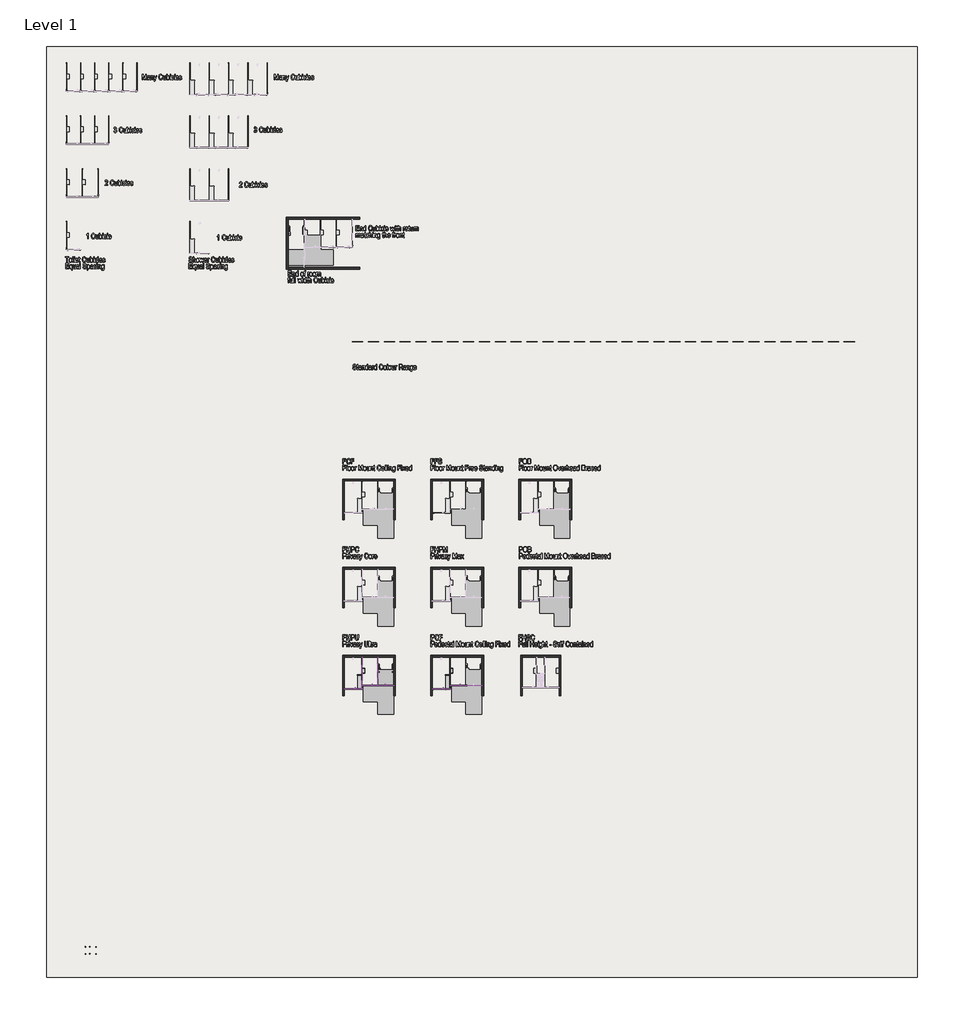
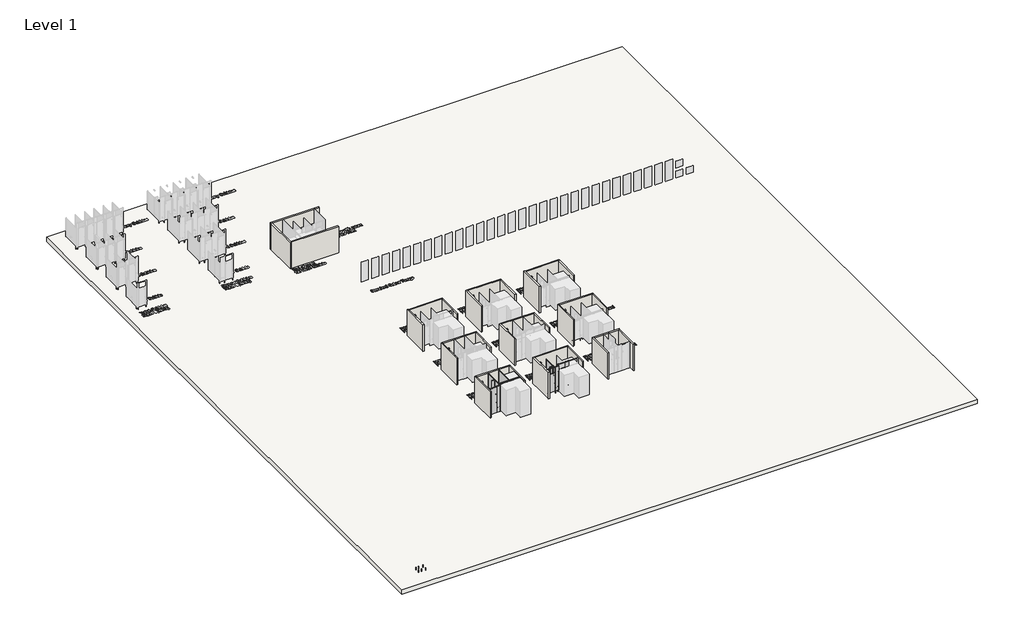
# One storey, part 1 of 21: 71 furniture elements, 30 walls, 5 proxies, 1 slab.
"""IFC4 building model written with IfcOpenShell, lengths in millimetres."""

from ifc_helpers import new_model, si_unit, frame, origin, origin_with_axes, place, context, project, spatial, polyline, outline, extrude, faceted_brep, transform, mapped, element, save
from components import grab_rail_angled_generic_variable_c761e824, grab_rail_angled_generic_variable_3e2c0b31, toilet_paper_dispenser_single_generic_jumbo_roll_standard_5525cc7b, furniture_50x50x3_ea_30474b0d, single_jumbo_roll_e7ba397d, standard_17157e73, standard_33255a47, standard_312035cd, standard_951f8db3, standard_8b35f988, standard_a09735d1, standard_50133f41, standard_9f86a58c, standard_54add324, standard_539b4371, standard_d9afaeec, standard_103004a1, standard_12249eb2, standard_d7762a54, standard_31cafe8a, standard_3d746f33, standard_4055153e, standard_ba3eb68e, standard_246fb630, standard_a495ee6c, standard_6f46902e, standard_7d118681, standard_5e636450, standard_dc7732f7, standard_ce56a993, standard_a54649d3, standard_8169fa8b, standard_67804c96, standard_4ddd5521

model = new_model("IFC4")

# Units and contexts
model_context = context("Model", 3, world=origin())
ifc_project = project(units=[si_unit("LENGTHUNIT", "METRE", prefix="MILLI")], contexts=[model_context])

# Site, building, storey
site = spatial("IfcSite", under=ifc_project)
building = spatial("IfcBuilding", under=site)
storey = spatial("IfcBuildingStorey", under=building, Name="Level 1", Elevation=0.0)

# Proxies
placement = place(None, origin())
grab_rail_angled_generic_variable_shape = grab_rail_angled_generic_variable_c761e824(model_context)
element("IfcBuildingElementProxy", 1, Name="Grab Rail-Angled-Generic-Variable : Ambulant-32Ø 450+450@90°", ObjectType="Grab Rail-Angled-Generic-Variable : Ambulant-32Ø 450+450@90°", at=placement, inside=storey, context=model_context, shape_type="MappedRepresentation", body=[
    mapped(grab_rail_angled_generic_variable_shape, transform((-9235.416652, -561.5342317, 784.0), x_axis=(0.0, 1.0, 0.0), y_axis=(0.0, 0.0, 1.0), z_axis=(1.0, 0.0, 0.0))),
])
grab_rail_angled_generic_variable_2_shape = grab_rail_angled_generic_variable_3e2c0b31(model_context)
element("IfcBuildingElementProxy", 2, Name="Grab Rail-Angled-Generic-Variable : Ambulant-32Ø 450+450@90°", ObjectType="Grab Rail-Angled-Generic-Variable : Ambulant-32Ø 450+450@90°", at=placement, inside=storey, context=model_context, shape_type="MappedRepresentation", body=[
    mapped(grab_rail_angled_generic_variable_2_shape, transform((-8335.416652, -561.5342317, 784.0), x_axis=(0.0, 1.0, 0.0), y_axis=(0.0, 0.0, -1.0), z_axis=(-1.0, 0.0, 0.0))),
])
toilet_paper_dispenser_single_generic_jumbo_roll_standard_shape = toilet_paper_dispenser_single_generic_jumbo_roll_standard_5525cc7b(model_context)
element("IfcBuildingElementProxy", 3, Name="Toilet Paper Dispenser-Single-Generic-Jumbo Roll : Standard", ObjectType="Toilet Paper Dispenser-Single-Generic-Jumbo Roll : Standard", at=placement, inside=storey, context=model_context, shape_type="MappedRepresentation", body=[
    mapped(toilet_paper_dispenser_single_generic_jumbo_roll_standard_shape, transform((-10135.416652, -715.5342317, 561.5), x_axis=(0.0, 1.0000000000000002, 0.0), y_axis=(0.0, 0.0, 1.0), z_axis=(1.0000000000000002, 0.0, 0.0))),
])
element("IfcBuildingElementProxy", 4, Name="Toilet Paper Dispenser-Single-Generic-Jumbo Roll : Standard", ObjectType="Toilet Paper Dispenser-Single-Generic-Jumbo Roll : Standard", at=placement, inside=storey, context=model_context, shape_type="MappedRepresentation", body=[
    mapped(toilet_paper_dispenser_single_generic_jumbo_roll_standard_shape, transform((-5135.416652, -715.5342317, 561.5), x_axis=(0.0, 1.0000000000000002, 0.0), y_axis=(0.0, 0.0, 1.0), z_axis=(1.0000000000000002, 0.0, 0.0))),
])
element("IfcBuildingElementProxy", 5, Name="Toilet Paper Dispenser-Single-Generic-Jumbo Roll : Standard", ObjectType="Toilet Paper Dispenser-Single-Generic-Jumbo Roll : Standard", at=placement, inside=storey, context=model_context, shape_type="MappedRepresentation", body=[
    mapped(toilet_paper_dispenser_single_generic_jumbo_roll_standard_shape, transform((-9235.416652, -715.5342317, 561.5), x_axis=(0.0, 1.0000000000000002, 0.0), y_axis=(0.0, 0.0, 1.0), z_axis=(1.0000000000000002, 0.0, 0.0))),
])

# Furniture
furniture_50x50x3_ea_shape = furniture_50x50x3_ea_30474b0d(model_context)
element("IfcFurniture", 6, ObjectType="X_Partition-Angle-Duracube-Shower Seat : 50x50x3 EA", at=placement, inside=storey, context=model_context, shape_type="MappedRepresentation", body=[
    mapped(furniture_50x50x3_ea_shape, transform((-5148.416652, -1008.5342317, 462.0), x_axis=(0.0, -1.0, 0.0), y_axis=(0.0, 0.0, 1.0), z_axis=(-1.0, 0.0, 0.0))),
])
element("IfcFurniture", 7, ObjectType="X_Partition-Angle-Duracube-Shower Seat : 50x50x3 EA", at=placement, inside=storey, context=model_context, shape_type="MappedRepresentation", body=[
    mapped(furniture_50x50x3_ea_shape, transform((-5148.416652, -1695.5342317, 462.0), x_axis=(0.0, -1.0, 0.0), y_axis=(0.0, 0.0, 1.0), z_axis=(-1.0, 0.0, 0.0))),
])
element("IfcFurniture", 8, ObjectType="X_Partition-Angle-Duracube-Shower Seat : 50x50x3 EA", at=placement, inside=storey, context=model_context, shape_type="MappedRepresentation", body=[
    mapped(furniture_50x50x3_ea_shape, transform((-10148.416652, -1008.5342317, 462.0), x_axis=(0.0, -1.0, 0.0), y_axis=(0.0, 0.0, 1.0), z_axis=(-1.0, 0.0, 0.0))),
])
element("IfcFurniture", 9, ObjectType="X_Partition-Angle-Duracube-Shower Seat : 50x50x3 EA", at=placement, inside=storey, context=model_context, shape_type="MappedRepresentation", body=[
    mapped(furniture_50x50x3_ea_shape, transform((-10148.416652, -1695.5342317, 462.0), x_axis=(0.0, -1.0, 0.0), y_axis=(0.0, 0.0, 1.0), z_axis=(-1.0, 0.0, 0.0))),
])
element("IfcFurniture", 10, ObjectType="X_Partition-Angle-Duracube-Shower Seat : 50x50x3 EA", at=placement, inside=storey, context=model_context, shape_type="MappedRepresentation", body=[
    mapped(furniture_50x50x3_ea_shape, transform((-5148.416652, -1352.0342317, 462.0), x_axis=(0.0, -1.0, 0.0), y_axis=(0.0, 0.0, 1.0), z_axis=(-1.0, 0.0, 0.0))),
])
element("IfcFurniture", 11, ObjectType="X_Partition-Angle-Duracube-Shower Seat : 50x50x3 EA", at=placement, inside=storey, context=model_context, shape_type="MappedRepresentation", body=[
    mapped(furniture_50x50x3_ea_shape, transform((-5363.416652, -958.5342317, 462.0), x_axis=(1.0, 0.0, 0.0), y_axis=(0.0, 0.0, 1.0), z_axis=(0.0, -1.0, 0.0))),
])
element("IfcFurniture", 12, ObjectType="X_Partition-Angle-Duracube-Shower Seat : 50x50x3 EA", at=placement, inside=storey, context=model_context, shape_type="MappedRepresentation", body=[
    mapped(furniture_50x50x3_ea_shape, transform((-5363.416652, -1720.5342317, 487.0), x_axis=(1.0, 0.0, 0.0), y_axis=(0.0, -1.0, 0.0), z_axis=(0.0, 0.0, -1.0))),
])
element("IfcFurniture", 13, ObjectType="X_Partition-Angle-Duracube-Shower Seat : 50x50x3 EA", at=placement, inside=storey, context=model_context, shape_type="MappedRepresentation", body=[
    mapped(furniture_50x50x3_ea_shape, transform((-10148.416652, -1352.0342317, 462.0), x_axis=(0.0, -1.0, 0.0), y_axis=(0.0, 0.0, 1.0), z_axis=(-1.0, 0.0, 0.0))),
])
element("IfcFurniture", 14, ObjectType="X_Partition-Angle-Duracube-Shower Seat : 50x50x3 EA", at=placement, inside=storey, context=model_context, shape_type="MappedRepresentation", body=[
    mapped(furniture_50x50x3_ea_shape, transform((-10363.416652, -958.5342317, 462.0), x_axis=(1.0, 0.0, 0.0), y_axis=(0.0, 0.0, 1.0), z_axis=(0.0, -1.0, 0.0))),
])
element("IfcFurniture", 15, ObjectType="X_Partition-Angle-Duracube-Shower Seat : 50x50x3 EA", at=placement, inside=storey, context=model_context, shape_type="MappedRepresentation", body=[
    mapped(furniture_50x50x3_ea_shape, transform((-10363.416652, -1720.5342317, 487.0), x_axis=(1.0, 0.0, 0.0), y_axis=(0.0, -1.0, 0.0), z_axis=(0.0, 0.0, -1.0))),
])
single_jumbo_roll_shape = single_jumbo_roll_e7ba397d(model_context)
element("IfcFurniture", 16, ObjectType="X_Partition-Compact Laminate-Duracube-Rectangular : Single Jumbo Roll", at=placement, inside=storey, context=model_context, shape_type="MappedRepresentation", body=[
    mapped(single_jumbo_roll_shape, transform((-9248.416652, -790.2345582, 0.0), x_axis=(0.0, 1.0000000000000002, 0.0), y_axis=(-1.0000000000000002, 0.0, 0.0), z_axis=(0.0, 0.0, 1.0))),
])
standard_shape = standard_17157e73(model_context)
element("IfcFurniture", 17, ObjectType="X_Partition-Compact Laminate-Duracube-Rectangular : Standard", at=placement, inside=storey, context=model_context, shape_type="MappedRepresentation", body=[
    mapped(standard_shape, transform((-5148.416652, -890.2345582, 0.0), x_axis=(0.0, 1.0000000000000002, 0.0), y_axis=(-1.0000000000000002, 0.0, 0.0), z_axis=(0.0, 0.0, 1.0))),
])
standard_2_shape = standard_33255a47(model_context)
element("IfcFurniture", 18, ObjectType="X_Partition-Compact Laminate-Duracube-Rectangular : Standard", at=placement, inside=storey, context=model_context, shape_type="MappedRepresentation", body=[
    mapped(standard_2_shape, transform((-5129.6169784, -1545.5342317, 0.0), x_axis=(1.0, 0.0, 0.0), y_axis=(0.0, 1.0, 0.0), z_axis=(0.0, 0.0, 1.0))),
])
element("IfcFurniture", 19, ObjectType="X_Partition-Compact Laminate-Duracube-Rectangular : Standard", at=placement, inside=storey, context=model_context, shape_type="MappedRepresentation", body=[
    mapped(standard_2_shape, transform((-6129.6169784, -1745.5342317, 0.0), x_axis=(1.0, 0.0, 0.0), y_axis=(0.0, 1.0, 0.0), z_axis=(0.0, 0.0, 1.0))),
])
standard_3_shape = standard_312035cd(model_context)
element("IfcFurniture", 20, ObjectType="X_Partition-Compact Laminate-Duracube-Rectangular : Standard", at=placement, inside=storey, context=model_context, shape_type="MappedRepresentation", body=[
    mapped(standard_3_shape, transform((-5327.1169784, -1745.5342317, 0.0), x_axis=(1.0, 0.0, 0.0), y_axis=(0.0, 1.0, 0.0), z_axis=(0.0, 0.0, 1.0))),
])
standard_4_shape = standard_951f8db3(model_context)
element("IfcFurniture", 21, ObjectType="X_Partition-Compact Laminate-Duracube-Rectangular : Standard", at=placement, inside=storey, context=model_context, shape_type="MappedRepresentation", body=[
    mapped(standard_4_shape, transform((-4337.6169784, -1545.5342317, 0.0), x_axis=(1.0, 0.0, 0.0), y_axis=(0.0, 1.0, 0.0), z_axis=(0.0, 0.0, 1.0))),
])
standard_5_shape = standard_8b35f988(model_context)
element("IfcFurniture", 22, ObjectType="X_Partition-Compact Laminate-Duracube-Rectangular : Standard", at=placement, inside=storey, context=model_context, shape_type="MappedRepresentation", body=[
    mapped(standard_5_shape, transform((-10148.416652, -890.2345582, 0.0), x_axis=(0.0, 1.0000000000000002, 0.0), y_axis=(-1.0000000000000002, 0.0, 0.0), z_axis=(0.0, 0.0, 1.0))),
])
standard_6_shape = standard_a09735d1(model_context)
element("IfcFurniture", 23, ObjectType="X_Partition-Compact Laminate-Duracube-Shower Seat & Division : Standard", at=placement, inside=storey, context=model_context, shape_type="MappedRepresentation", body=[
    mapped(standard_6_shape, transform((-10327.1169784, -945.5342317, 0.0), x_axis=(1.0, 0.0, 0.0), y_axis=(0.0, 1.0, 0.0), z_axis=(0.0, 0.0, 1.0))),
])
standard_7_shape = standard_50133f41(model_context)
element("IfcFurniture", 24, ObjectType="X_Partition-Compact Laminate-Duracube-Rectangular : Standard", at=placement, inside=storey, context=model_context, shape_type="MappedRepresentation", body=[
    mapped(standard_7_shape, transform((-10327.1169784, -1745.5342317, 0.0), x_axis=(1.0, 0.0, 0.0), y_axis=(0.0, 1.0, 0.0), z_axis=(0.0, 0.0, 1.0))),
])
standard_8_shape = standard_9f86a58c(model_context)
element("IfcFurniture", 25, ObjectType="X_Partition-Compact Laminate-Duracube-Rectangular : Standard", at=placement, inside=storey, context=model_context, shape_type="MappedRepresentation", body=[
    mapped(standard_8_shape, transform((-10129.6169784, -1545.5342317, 0.0), x_axis=(1.0, 0.0, 0.0), y_axis=(0.0, 1.0, 0.0), z_axis=(0.0, 0.0, 1.0))),
])
element("IfcFurniture", 26, ObjectType="X_Partition-Compact Laminate-Duracube-Rectangular : Standard", at=placement, inside=storey, context=model_context, shape_type="MappedRepresentation", body=[
    mapped(standard_8_shape, transform((-11129.6169784, -1745.5342317, 0.0), x_axis=(1.0, 0.0, 0.0), y_axis=(0.0, 1.0, 0.0), z_axis=(0.0, 0.0, 1.0))),
])
standard_9_shape = standard_54add324(model_context)
element("IfcFurniture", 27, ObjectType="X_Partition-Compact Laminate-Duracube-Rectangular : Standard", at=placement, inside=storey, context=model_context, shape_type="MappedRepresentation", body=[
    mapped(standard_9_shape, transform((-8425.6169784, -1545.5342317, 0.0), x_axis=(1.0, 0.0, 0.0), y_axis=(0.0, 1.0, 0.0), z_axis=(0.0, 0.0, 1.0))),
])
standard_10_shape = standard_539b4371(model_context)
element("IfcFurniture", 28, ObjectType="X_Partition-Compact Laminate-Duracube-Rectangular : Standard", at=placement, inside=storey, context=model_context, shape_type="MappedRepresentation", body=[
    mapped(standard_10_shape, transform((-9337.6169784, -1545.5342317, 0.0), x_axis=(1.0, 0.0, 0.0), y_axis=(0.0, 1.0, 0.0), z_axis=(0.0, 0.0, 1.0))),
])
standard_11_shape = standard_d9afaeec(model_context)
element("IfcFurniture", 29, ObjectType="X_Partition-Compact Laminate-Duracube-Door : Standard", at=placement, inside=storey, context=model_context, shape_type="MappedRepresentation", body=[
    mapped(standard_11_shape, transform((-4780.1169784, -1545.5342317, 0.0), x_axis=(1.0, 0.0, 0.0), y_axis=(0.0, 1.0, 0.0), z_axis=(0.0, 0.0, 1.0))),
])
element("IfcFurniture", 30, ObjectType="X_Partition-Compact Laminate-Duracube-Door : Standard", at=placement, inside=storey, context=model_context, shape_type="MappedRepresentation", body=[
    mapped(standard_11_shape, transform((-5780.1169784, -1745.5342317, 0.0), x_axis=(1.0, 0.0, 0.0), y_axis=(0.0, 1.0, 0.0), z_axis=(0.0, 0.0, 1.0))),
])
standard_12_shape = standard_103004a1(model_context)
element("IfcFurniture", 31, ObjectType="X_Partition-Compact Laminate-Duracube-Door : Standard", at=placement, inside=storey, context=model_context, shape_type="MappedRepresentation", body=[
    mapped(standard_12_shape, transform((-9780.1169784, -1545.5342317, 0.0), x_axis=(1.0, 0.0, 0.0), y_axis=(0.0, 1.0, 0.0), z_axis=(0.0, 0.0, 1.0))),
])
element("IfcFurniture", 32, ObjectType="X_Partition-Compact Laminate-Duracube-Door : Standard", at=placement, inside=storey, context=model_context, shape_type="MappedRepresentation", body=[
    mapped(standard_12_shape, transform((-10780.1169784, -1745.5342317, 0.0), x_axis=(1.0, 0.0, 0.0), y_axis=(0.0, 1.0, 0.0), z_axis=(0.0, 0.0, 1.0))),
])
standard_13_shape = standard_12249eb2(model_context)
element("IfcFurniture", 33, ObjectType="X_Partition-Compact Laminate-Duracube-Door : Standard", at=placement, inside=storey, context=model_context, shape_type="MappedRepresentation", body=[
    mapped(standard_13_shape, transform((-8832.6169784, -1545.5342317, 0.0), x_axis=(1.0, 0.0, 0.0), y_axis=(0.0, 1.0, 0.0), z_axis=(0.0, 0.0, 1.0))),
])
standard_14_shape = standard_d7762a54(model_context)
element("IfcFurniture", 34, ObjectType="X_Partition-Foot-Duracube-Assembly : Standard", at=placement, inside=storey, context=model_context, shape_type="MappedRepresentation", body=[
    mapped(standard_14_shape, transform((-25874.2096237, -16360.1847803, 0.0), x_axis=(1.0, 0.0, 0.0), y_axis=(0.0, 1.0, 0.0), z_axis=(0.0, 0.0, 1.0))),
])
element("IfcFurniture", 35, ObjectType="X_Partition-Foot-Duracube-Assembly : Standard", at=placement, inside=storey, context=model_context, shape_type="MappedRepresentation", body=[
    mapped(standard_14_shape, transform((-25627.2261772, -16352.0861612, 0.0), x_axis=(1.0, 0.0, 0.0), y_axis=(0.0, 1.0, 0.0), z_axis=(0.0, 0.0, 1.0))),
])
element("IfcFurniture", 36, ObjectType="X_Partition-Foot-Duracube-Assembly : Standard", at=placement, inside=storey, context=model_context, shape_type="MappedRepresentation", body=[
    mapped(standard_14_shape, transform((-25269.1762593, -16375.8240386, 0.0), x_axis=(1.0, 0.0, 0.0), y_axis=(0.0, 1.0, 0.0), z_axis=(0.0, 0.0, 1.0))),
])
element("IfcFurniture", 37, ObjectType="X_Partition-Foot-Duracube-Assembly : Standard", at=placement, inside=storey, context=model_context, shape_type="MappedRepresentation", body=[
    mapped(standard_14_shape, transform((-25874.2096237, -16760.1847803, 0.0), x_axis=(1.0, 0.0, 0.0), y_axis=(0.0, 1.0, 0.0), z_axis=(0.0, 0.0, 1.0))),
])
element("IfcFurniture", 38, ObjectType="X_Partition-Foot-Duracube-Assembly : Standard", at=placement, inside=storey, context=model_context, shape_type="MappedRepresentation", body=[
    mapped(standard_14_shape, transform((-25627.2261772, -16752.0861612, 0.0), x_axis=(1.0, 0.0, 0.0), y_axis=(0.0, 1.0, 0.0), z_axis=(0.0, 0.0, 1.0))),
])
element("IfcFurniture", 39, ObjectType="X_Partition-Foot-Duracube-Assembly : Standard", at=placement, inside=storey, context=model_context, shape_type="MappedRepresentation", body=[
    mapped(standard_14_shape, transform((-25269.1762593, -16775.8240386, 0.0), x_axis=(1.0, 0.0, 0.0), y_axis=(0.0, 1.0, 0.0), z_axis=(0.0, 0.0, 1.0))),
])
standard_15_shape = standard_31cafe8a(model_context)
element("IfcFurniture", 40, ObjectType="X_Partition-Robe Hook-Duracube-Door Stop : Standard", at=placement, inside=storey, context=model_context, shape_type="MappedRepresentation", body=[
    mapped(standard_15_shape, transform((-4535.416652, -1545.5342317, 1700.0), x_axis=(-1.0, 0.0, 0.0), y_axis=(0.0, 0.0, 1.0), z_axis=(0.0, 1.0, 0.0))),
])
element("IfcFurniture", 41, ObjectType="X_Partition-Robe Hook-Duracube-Door Stop : Standard", at=placement, inside=storey, context=model_context, shape_type="MappedRepresentation", body=[
    mapped(standard_15_shape, transform((-5535.416652, -1745.5342317, 1700.0), x_axis=(-1.0, 0.0, 0.0), y_axis=(0.0, 0.0, 1.0), z_axis=(0.0, 1.0, 0.0))),
])
element("IfcFurniture", 42, ObjectType="X_Partition-Robe Hook-Duracube-Door Stop : Standard", at=placement, inside=storey, context=model_context, shape_type="MappedRepresentation", body=[
    mapped(standard_15_shape, transform((-9535.416652, -1545.5342317, 1700.0), x_axis=(-1.0, 0.0, 0.0), y_axis=(0.0, 0.0, 1.0), z_axis=(0.0, 1.0, 0.0))),
])
element("IfcFurniture", 43, ObjectType="X_Partition-Robe Hook-Duracube-Door Stop : Standard", at=placement, inside=storey, context=model_context, shape_type="MappedRepresentation", body=[
    mapped(standard_15_shape, transform((-10535.416652, -1745.5342317, 1700.0), x_axis=(-1.0, 0.0, 0.0), y_axis=(0.0, 0.0, 1.0), z_axis=(0.0, 1.0, 0.0))),
])
element("IfcFurniture", 44, ObjectType="X_Partition-Robe Hook-Duracube-Door Stop : Standard", at=placement, inside=storey, context=model_context, shape_type="MappedRepresentation", body=[
    mapped(standard_15_shape, transform((-8787.916652, -1545.5342317, 1300.0), x_axis=(-1.0, 0.0, 0.0), y_axis=(0.0, 0.0, 1.0), z_axis=(0.0, 1.0, 0.0))),
])
standard_16_shape = standard_3d746f33(model_context)
element("IfcFurniture", 45, ObjectType="X_Partition-Foot-Duracube-Assembly : Standard", at=placement, inside=storey, context=model_context, shape_type="MappedRepresentation", body=[
    mapped(standard_16_shape, transform((-5033.2163255, -1578.5342317, 0.0), x_axis=(-1.0000000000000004, 0.0, 0.0), y_axis=(0.0, -1.0000000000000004, 0.0), z_axis=(0.0, 0.0, 1.0))),
])
element("IfcFurniture", 46, ObjectType="X_Partition-Foot-Duracube-Assembly : Standard", at=placement, inside=storey, context=model_context, shape_type="MappedRepresentation", body=[
    mapped(standard_16_shape, transform((-6033.2163255, -1778.5342317, 0.0), x_axis=(-1.0000000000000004, 0.0, 0.0), y_axis=(0.0, -1.0000000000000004, 0.0), z_axis=(0.0, 0.0, 1.0))),
])
element("IfcFurniture", 47, ObjectType="X_Partition-Foot-Duracube-Assembly : Standard", at=placement, inside=storey, context=model_context, shape_type="MappedRepresentation", body=[
    mapped(standard_16_shape, transform((-5348.2163255, -1778.5342317, 0.0), x_axis=(-1.0000000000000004, 0.0, 0.0), y_axis=(0.0, -1.0000000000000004, 0.0), z_axis=(0.0, 0.0, 1.0))),
])
element("IfcFurniture", 48, ObjectType="X_Partition-Foot-Duracube-Assembly : Standard", at=placement, inside=storey, context=model_context, shape_type="MappedRepresentation", body=[
    mapped(standard_16_shape, transform((-5417.1169784, -925.5342317, 0.0), x_axis=(1.0, 0.0, 0.0), y_axis=(0.0, 1.0, 0.0), z_axis=(0.0, 0.0, 1.0))),
])
element("IfcFurniture", 49, ObjectType="X_Partition-Foot-Duracube-Assembly : Standard", at=placement, inside=storey, context=model_context, shape_type="MappedRepresentation", body=[
    mapped(standard_16_shape, transform((-10417.1169784, -925.5342317, 0.0), x_axis=(1.0, 0.0, 0.0), y_axis=(0.0, 1.0, 0.0), z_axis=(0.0, 0.0, 1.0))),
])
element("IfcFurniture", 50, ObjectType="X_Partition-Foot-Duracube-Assembly : Standard", at=placement, inside=storey, context=model_context, shape_type="MappedRepresentation", body=[
    mapped(standard_16_shape, transform((-4348.2163255, -1578.5342317, 0.0), x_axis=(-1.0000000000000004, 0.0, 0.0), y_axis=(0.0, -1.0000000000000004, 0.0), z_axis=(0.0, 0.0, 1.0))),
])
element("IfcFurniture", 51, ObjectType="X_Partition-Foot-Duracube-Assembly : Standard", at=placement, inside=storey, context=model_context, shape_type="MappedRepresentation", body=[
    mapped(standard_16_shape, transform((-4148.2163255, -1578.5342317, 0.0), x_axis=(-1.0000000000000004, 0.0, 0.0), y_axis=(0.0, -1.0000000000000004, 0.0), z_axis=(0.0, 0.0, 1.0))),
])
standard_17_shape = standard_4055153e(model_context)
element("IfcFurniture", 52, ObjectType="X_Partition-Channel-Duracube-End : Standard", at=placement, inside=storey, context=model_context, shape_type="MappedRepresentation", body=[
    mapped(standard_17_shape, transform((-10118.7163255, -958.5342317, 0.0), x_axis=(-1.0000000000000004, 0.0, 0.0), y_axis=(0.0, -1.0000000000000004, 0.0), z_axis=(0.0, 0.0, 1.0))),
])
element("IfcFurniture", 53, ObjectType="X_Partition-Channel-Duracube-End : Standard", at=placement, inside=storey, context=model_context, shape_type="MappedRepresentation", body=[
    mapped(standard_17_shape, transform((-5165.1169784, -1545.5342317, 0.0), x_axis=(1.0000000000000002, 0.0, 0.0), y_axis=(0.0, 1.0000000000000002, 0.0), z_axis=(0.0, 0.0, 1.0))),
])
element("IfcFurniture", 54, ObjectType="X_Partition-Channel-Duracube-End : Standard", at=placement, inside=storey, context=model_context, shape_type="MappedRepresentation", body=[
    mapped(standard_17_shape, transform((-6165.1169784, -1745.5342317, 0.0), x_axis=(1.0000000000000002, 0.0, 0.0), y_axis=(0.0, 1.0000000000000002, 0.0), z_axis=(0.0, 0.0, 1.0))),
])
standard_18_shape = standard_ba3eb68e(model_context)
element("IfcFurniture", 55, ObjectType="X_Partition-Channel-Duracube-End : Standard", at=placement, inside=storey, context=model_context, shape_type="MappedRepresentation", body=[
    mapped(standard_18_shape, transform((-5118.7163255, -958.5342317, 0.0), x_axis=(-1.0000000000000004, 0.0, 0.0), y_axis=(0.0, -1.0000000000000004, 0.0), z_axis=(0.0, 0.0, 1.0))),
])
element("IfcFurniture", 56, ObjectType="X_Partition-Channel-Duracube-End : Standard", at=placement, inside=storey, context=model_context, shape_type="MappedRepresentation", body=[
    mapped(standard_18_shape, transform((-4248.416652, -1575.2345582, 0.0), x_axis=(0.0, 1.0000000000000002, 0.0), y_axis=(-1.0000000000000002, 0.0, 0.0), z_axis=(0.0, 0.0, 1.0))),
])
standard_19_shape = standard_246fb630(model_context)
element("IfcFurniture", 57, ObjectType="X_Partition-Channel-Duracube-Ceiling : Standard", at=placement, inside=storey, context=model_context, shape_type="MappedRepresentation", body=[
    mapped(standard_19_shape, transform((-9280.1169784, -1543.5342317, 2374.0), x_axis=(1.0, 0.0, 0.0), y_axis=(0.0, 1.0, 0.0), z_axis=(0.0, 0.0, 1.0))),
])
element("IfcFurniture", 58, ObjectType="X_Partition-Channel-Duracube-Ceiling : Standard", at=placement, inside=storey, context=model_context, shape_type="MappedRepresentation", body=[
    mapped(standard_19_shape, transform((-4280.1169784, -1543.5342317, 2374.0), x_axis=(1.0, 0.0, 0.0), y_axis=(0.0, 1.0, 0.0), z_axis=(0.0, 0.0, 1.0))),
])
standard_20_shape = standard_a495ee6c(model_context)
element("IfcFurniture", 59, ObjectType="X_Partition-Channel-Duracube-Corner : Standard", at=placement, inside=storey, context=model_context, shape_type="MappedRepresentation", body=[
    mapped(standard_20_shape, transform((-5110.4663255, -1715.5342317, 0.0), x_axis=(-1.0, 0.0, 0.0), y_axis=(0.0, -1.0, 0.0), z_axis=(0.0, 0.0, 1.0))),
])
standard_21_shape = standard_6f46902e(model_context)
element("IfcFurniture", 60, ObjectType="X_Partition-Foot-Duracube-Assembly : Standard", at=placement, inside=storey, context=model_context, shape_type="MappedRepresentation", body=[
    mapped(standard_21_shape, transform((-5115.416652, -1696.7345582, 0.0), x_axis=(0.0, 1.0000000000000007, 0.0), y_axis=(-1.0000000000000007, 0.0, 0.0), z_axis=(0.0, 0.0, 1.0))),
])
standard_22_shape = standard_7d118681(model_context)
element("IfcFurniture", 61, ObjectType="X_Partition-Compact Laminate-Duracube-Shower Seat & Division : Standard", at=placement, inside=storey, context=model_context, shape_type="MappedRepresentation", body=[
    mapped(standard_22_shape, transform((-5327.1169784, -945.5342317, 0.0), x_axis=(1.0, 0.0, 0.0), y_axis=(0.0, 1.0, 0.0), z_axis=(0.0, 0.0, 1.0))),
])
standard_23_shape = standard_5e636450(model_context)
element("IfcFurniture", 62, ObjectType="X_Partition-Channel-Duracube-Ceiling : Standard", at=placement, inside=storey, context=model_context, shape_type="MappedRepresentation", body=[
    mapped(standard_23_shape, transform((-5679.1169784, -1743.5342317, 2374.0), x_axis=(1.0, 0.0, 0.0), y_axis=(0.0, 1.0, 0.0), z_axis=(0.0, 0.0, 1.0))),
])
element("IfcFurniture", 63, ObjectType="X_Partition-Channel-Duracube-Ceiling : Standard", at=placement, inside=storey, context=model_context, shape_type="MappedRepresentation", body=[
    mapped(standard_23_shape, transform((-10679.1169784, -1743.5342317, 2374.0), x_axis=(1.0, 0.0, 0.0), y_axis=(0.0, 1.0, 0.0), z_axis=(0.0, 0.0, 1.0))),
])
standard_24_shape = standard_dc7732f7(model_context)
element("IfcFurniture", 64, ObjectType="X_Partition-Channel-Duracube-End : Standard", at=placement, inside=storey, context=model_context, shape_type="MappedRepresentation", body=[
    mapped(standard_24_shape, transform((-11165.1169784, -1745.5342317, 0.0), x_axis=(1.0000000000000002, 0.0, 0.0), y_axis=(0.0, 1.0000000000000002, 0.0), z_axis=(0.0, 0.0, 1.0))),
])
element("IfcFurniture", 65, ObjectType="X_Partition-Channel-Duracube-End : Standard", at=placement, inside=storey, context=model_context, shape_type="MappedRepresentation", body=[
    mapped(standard_24_shape, transform((-10165.1169784, -1545.5342317, 0.0), x_axis=(1.0000000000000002, 0.0, 0.0), y_axis=(0.0, 1.0000000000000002, 0.0), z_axis=(0.0, 0.0, 1.0))),
])
element("IfcFurniture", 66, ObjectType="X_Partition-Channel-Duracube-End : Standard", at=placement, inside=storey, context=model_context, shape_type="MappedRepresentation", body=[
    mapped(standard_24_shape, transform((-9248.416652, -1575.2345582, 0.0), x_axis=(0.0, 1.0000000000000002, 0.0), y_axis=(-1.0000000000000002, 0.0, 0.0), z_axis=(0.0, 0.0, 1.0))),
])
standard_25_shape = standard_ce56a993(model_context)
element("IfcFurniture", 67, ObjectType="X_Partition-Channel-Duracube-End : Standard", at=placement, inside=storey, context=model_context, shape_type="MappedRepresentation", body=[
    mapped(standard_25_shape, transform((-8305.7163255, -1545.5342317, 0.0), x_axis=(-1.0000000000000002, 0.0, 0.0), y_axis=(0.0, -1.0000000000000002, 0.0), z_axis=(0.0, 0.0, 1.0))),
])
standard_26_shape = standard_a54649d3(model_context)
element("IfcFurniture", 68, ObjectType="X_Partition-Channel-Duracube-Ceiling : Standard", at=placement, inside=storey, context=model_context, shape_type="MappedRepresentation", body=[
    mapped(standard_26_shape, transform((-10150.416652, -890.2345582, 2374.0), x_axis=(0.0, 1.0000000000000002, 0.0), y_axis=(-1.0000000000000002, 0.0, 0.0), z_axis=(0.0, 0.0, 1.0))),
])
standard_27_shape = standard_8169fa8b(model_context)
element("IfcFurniture", 69, ObjectType="X_Partition-Channel-Duracube-Corner : Standard", at=placement, inside=storey, context=model_context, shape_type="MappedRepresentation", body=[
    mapped(standard_27_shape, transform((-10110.4663255, -1715.5342317, 0.0), x_axis=(-1.0, 0.0, 0.0), y_axis=(0.0, -1.0, 0.0), z_axis=(0.0, 0.0, 1.0))),
])
standard_28_shape = standard_67804c96(model_context)
element("IfcFurniture", 70, ObjectType="X_Partition-Channel-Duracube-Ceiling : Standard", at=placement, inside=storey, context=model_context, shape_type="MappedRepresentation", body=[
    mapped(standard_28_shape, transform((-9250.416652, -790.2345582, 2374.0), x_axis=(0.0, 1.0000000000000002, 0.0), y_axis=(-1.0000000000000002, 0.0, 0.0), z_axis=(0.0, 0.0, 1.0))),
])
standard_29_shape = standard_4ddd5521(model_context)
element("IfcFurniture", 71, ObjectType="X_Partition-Bumper-Duracube-Concealed Fix : Standard", at=placement, inside=storey, context=model_context, shape_type="MappedRepresentation", body=[
    mapped(standard_29_shape, transform((-4445.916652, -1545.5342317, 920.0), x_axis=(-1.0, 0.0, 0.0), y_axis=(0.0, 0.0, 1.0), z_axis=(0.0, 1.0, 0.0))),
])
element("IfcFurniture", 72, ObjectType="X_Partition-Bumper-Duracube-Concealed Fix : Standard", at=placement, inside=storey, context=model_context, shape_type="MappedRepresentation", body=[
    mapped(standard_29_shape, transform((-5445.916652, -1745.5342317, 920.0), x_axis=(-1.0, 0.0, 0.0), y_axis=(0.0, 0.0, 1.0), z_axis=(0.0, 1.0, 0.0))),
])
element("IfcFurniture", 73, ObjectType="X_Partition-Bumper-Duracube-Concealed Fix : Standard", at=placement, inside=storey, context=model_context, shape_type="MappedRepresentation", body=[
    mapped(standard_29_shape, transform((-9445.916652, -1545.5342317, 920.0), x_axis=(-1.0, 0.0, 0.0), y_axis=(0.0, 0.0, 1.0), z_axis=(0.0, 1.0, 0.0))),
])
element("IfcFurniture", 74, ObjectType="X_Partition-Bumper-Duracube-Concealed Fix : Standard", at=placement, inside=storey, context=model_context, shape_type="MappedRepresentation", body=[
    mapped(standard_29_shape, transform((-10445.916652, -1745.5342317, 920.0), x_axis=(-1.0, 0.0, 0.0), y_axis=(0.0, 0.0, 1.0), z_axis=(0.0, 1.0, 0.0))),
])
element("IfcFurniture", 75, ObjectType="X_Partition-Bumper-Duracube-Concealed Fix : Standard", at=placement, inside=storey, context=model_context, shape_type="MappedRepresentation", body=[
    mapped(standard_29_shape, transform((-4139.916652, -1558.5342317, 920.0), x_axis=(1.0, 0.0, 0.0), y_axis=(0.0, 0.0, 1.0), z_axis=(0.0, -1.0, 0.0))),
])
element("IfcFurniture", 76, ObjectType="X_Partition-Bumper-Duracube-Concealed Fix : Standard", at=placement, inside=storey, context=model_context, shape_type="MappedRepresentation", body=[
    mapped(standard_29_shape, transform((-9139.916652, -1558.5342317, 920.0), x_axis=(1.0, 0.0, 0.0), y_axis=(0.0, 0.0, 1.0), z_axis=(0.0, -1.0, 0.0))),
])

# Slab
element("IfcSlab", 77, ObjectType="Generic Floor - 400mm", at=placement, inside=storey, context=model_context, shape_type="SweptSolid", body=[
    extrude(outline(polyline([(21371.262608, 34708.3616863), (21371.262608, -18117.8200046), (-28035.416652, -18117.8200046), (-28035.416652, 34708.3616863), (21371.262608, 34708.3616863)])), frame((0.0, 0.0, -400.0), z_axis=(0.0, 0.0, 1.0), x_axis=(1.0, 0.0, 0.0)), (0.0, 0.0, 1.0), 400.0),
])

# Walls
element("IfcWall", 78, ObjectType="100mm", at=placement, inside=storey, context=model_context, shape_type="Brep", body=[
    faceted_brep([(-6135.416652, -2145.5342317, 0.0), (-6135.416652, 54.4657683, 0.0), (-6135.416652, 154.4657683, 0.0), (-6135.416652, 154.4657683, 2400.0), (-6135.416652, 54.4657683, 2400.0), (-6135.416652, -2145.5342317, 2400.0), (-6235.416652, -2145.5342317, 0.0), (-6235.416652, -2145.5342317, 2400.0), (-6235.416652, 154.4657683, 2400.0), (-6235.416652, 154.4657683, 0.0)], [[[0, 1, 2, 3, 4, 5]], [[6, 7, 8, 9]], [[2, 1, 0, 6, 9]], [[5, 4, 3, 8, 7]], [[0, 5, 7, 6]], [[3, 2, 9, 8]]]),
])
element("IfcWall", 79, ObjectType="100mm", at=placement, inside=storey, context=model_context, shape_type="Brep", body=[
    faceted_brep([(-6135.416652, 54.4657683, 0.0), (-3335.416652, 54.4657683, 0.0), (-3235.416652, 54.4657683, 0.0), (-3235.416652, 54.4657683, 2400.0), (-3335.416652, 54.4657683, 2400.0), (-6135.416652, 54.4657683, 2400.0), (-6135.416652, 154.4657683, 0.0), (-6135.416652, 154.4657683, 2400.0), (-3235.416652, 154.4657683, 2400.0), (-3235.416652, 154.4657683, 0.0)], [[[0, 1, 2, 3, 4, 5]], [[6, 7, 8, 9]], [[2, 1, 0, 6, 9]], [[5, 4, 3, 8, 7]], [[0, 5, 7, 6]], [[3, 2, 9, 8]]]),
])
element("IfcWall", 80, ObjectType="100mm", at=placement, inside=storey, context=model_context, shape_type="SweptSolid", body=[
    extrude(outline(polyline([(-3335.416652, -2145.5342317), (-3335.416652, 54.4657683), (-3235.416652, 54.4657683), (-3235.416652, -2145.5342317), (-3335.416652, -2145.5342317)])), origin_with_axes(), (0.0, 0.0, 1.0), 2400.0),
])
element("IfcWall", 81, ObjectType="100mm", at=placement, inside=storey, context=model_context, shape_type="Brep", body=[
    faceted_brep([(-11135.416652, 7854.4657683, 0.0), (-11135.416652, 10054.4657683, 0.0), (-11135.416652, 10154.4657683, 0.0), (-11135.416652, 10154.4657683, 2400.0), (-11135.416652, 10054.4657683, 2400.0), (-11135.416652, 7854.4657683, 2400.0), (-11235.416652, 7854.4657683, 0.0), (-11235.416652, 7854.4657683, 2400.0), (-11235.416652, 10154.4657683, 2400.0), (-11235.416652, 10154.4657683, 0.0)], [[[0, 1, 2, 3, 4, 5]], [[6, 7, 8, 9]], [[2, 1, 0, 6, 9]], [[5, 4, 3, 8, 7]], [[0, 5, 7, 6]], [[3, 2, 9, 8]]]),
])
element("IfcWall", 82, ObjectType="100mm", at=placement, inside=storey, context=model_context, shape_type="Brep", body=[
    faceted_brep([(-11135.416652, 10054.4657683, 0.0), (-8335.416652, 10054.4657683, 0.0), (-8235.416652, 10054.4657683, 0.0), (-8235.416652, 10054.4657683, 2400.0), (-8335.416652, 10054.4657683, 2400.0), (-11135.416652, 10054.4657683, 2400.0), (-11135.416652, 10154.4657683, 0.0), (-11135.416652, 10154.4657683, 2400.0), (-8235.416652, 10154.4657683, 2400.0), (-8235.416652, 10154.4657683, 0.0)], [[[0, 1, 2, 3, 4, 5]], [[6, 7, 8, 9]], [[2, 1, 0, 6, 9]], [[5, 4, 3, 8, 7]], [[0, 5, 7, 6]], [[3, 2, 9, 8]]]),
])
element("IfcWall", 83, ObjectType="100mm", at=placement, inside=storey, context=model_context, shape_type="SweptSolid", body=[
    extrude(outline(polyline([(-8335.416652, 7854.4657683), (-8335.416652, 10054.4657683), (-8235.416652, 10054.4657683), (-8235.416652, 7854.4657683), (-8335.416652, 7854.4657683)])), origin_with_axes(), (0.0, 0.0, 1.0), 2400.0),
])
element("IfcWall", 84, ObjectType="100mm", at=placement, inside=storey, context=model_context, shape_type="Brep", body=[
    faceted_brep([(-6135.416652, 7854.4657683, 0.0), (-6135.416652, 10054.4657683, 0.0), (-6135.416652, 10154.4657683, 0.0), (-6135.416652, 10154.4657683, 2400.0), (-6135.416652, 10054.4657683, 2400.0), (-6135.416652, 7854.4657683, 2400.0), (-6235.416652, 7854.4657683, 0.0), (-6235.416652, 7854.4657683, 2400.0), (-6235.416652, 10154.4657683, 2400.0), (-6235.416652, 10154.4657683, 0.0)], [[[0, 1, 2, 3, 4, 5]], [[6, 7, 8, 9]], [[2, 1, 0, 6, 9]], [[5, 4, 3, 8, 7]], [[0, 5, 7, 6]], [[3, 2, 9, 8]]]),
])
element("IfcWall", 85, ObjectType="100mm", at=placement, inside=storey, context=model_context, shape_type="Brep", body=[
    faceted_brep([(-6135.416652, 10054.4657683, 0.0), (-3335.416652, 10054.4657683, 0.0), (-3235.416652, 10054.4657683, 0.0), (-3235.416652, 10054.4657683, 2400.0), (-3335.416652, 10054.4657683, 2400.0), (-6135.416652, 10054.4657683, 2400.0), (-6135.416652, 10154.4657683, 0.0), (-6135.416652, 10154.4657683, 2400.0), (-3235.416652, 10154.4657683, 2400.0), (-3235.416652, 10154.4657683, 0.0)], [[[0, 1, 2, 3, 4, 5]], [[6, 7, 8, 9]], [[2, 1, 0, 6, 9]], [[5, 4, 3, 8, 7]], [[0, 5, 7, 6]], [[3, 2, 9, 8]]]),
])
element("IfcWall", 86, ObjectType="100mm", at=placement, inside=storey, context=model_context, shape_type="SweptSolid", body=[
    extrude(outline(polyline([(-3335.416652, 7854.4657683), (-3335.416652, 10054.4657683), (-3235.416652, 10054.4657683), (-3235.416652, 7854.4657683), (-3335.416652, 7854.4657683)])), origin_with_axes(), (0.0, 0.0, 1.0), 2400.0),
])
element("IfcWall", 87, ObjectType="100mm", at=placement, inside=storey, context=model_context, shape_type="Brep", body=[
    faceted_brep([(-1135.416652, 7854.4657683, 0.0), (-1135.416652, 10054.4657683, 0.0), (-1135.416652, 10154.4657683, 0.0), (-1135.416652, 10154.4657683, 2400.0), (-1135.416652, 10054.4657683, 2400.0), (-1135.416652, 7854.4657683, 2400.0), (-1235.416652, 7854.4657683, 0.0), (-1235.416652, 7854.4657683, 2400.0), (-1235.416652, 10154.4657683, 2400.0), (-1235.416652, 10154.4657683, 0.0)], [[[0, 1, 2, 3, 4, 5]], [[6, 7, 8, 9]], [[2, 1, 0, 6, 9]], [[5, 4, 3, 8, 7]], [[0, 5, 7, 6]], [[3, 2, 9, 8]]]),
])
element("IfcWall", 88, ObjectType="100mm", at=placement, inside=storey, context=model_context, shape_type="Brep", body=[
    faceted_brep([(-1135.416652, 10054.4657683, 0.0), (1664.583348, 10054.4657683, 0.0), (1764.583348, 10054.4657683, 0.0), (1764.583348, 10054.4657683, 2400.0), (1664.583348, 10054.4657683, 2400.0), (-1135.416652, 10054.4657683, 2400.0), (-1135.416652, 10154.4657683, 0.0), (-1135.416652, 10154.4657683, 2400.0), (1764.583348, 10154.4657683, 2400.0), (1764.583348, 10154.4657683, 0.0)], [[[0, 1, 2, 3, 4, 5]], [[6, 7, 8, 9]], [[2, 1, 0, 6, 9]], [[5, 4, 3, 8, 7]], [[0, 5, 7, 6]], [[3, 2, 9, 8]]]),
])
element("IfcWall", 89, ObjectType="100mm", at=placement, inside=storey, context=model_context, shape_type="SweptSolid", body=[
    extrude(outline(polyline([(1664.583348, 7854.4657683), (1664.583348, 10054.4657683), (1764.583348, 10054.4657683), (1764.583348, 7854.4657683), (1664.583348, 7854.4657683)])), origin_with_axes(), (0.0, 0.0, 1.0), 2400.0),
])
element("IfcWall", 90, ObjectType="100mm", at=placement, inside=storey, context=model_context, shape_type="Brep", body=[
    faceted_brep([(-11135.416652, 2854.4657683, 0.0), (-11135.416652, 5054.4657683, 0.0), (-11135.416652, 5154.4657683, 0.0), (-11135.416652, 5154.4657683, 2400.0), (-11135.416652, 5054.4657683, 2400.0), (-11135.416652, 2854.4657683, 2400.0), (-11235.416652, 2854.4657683, 0.0), (-11235.416652, 2854.4657683, 2400.0), (-11235.416652, 5154.4657683, 2400.0), (-11235.416652, 5154.4657683, 0.0)], [[[0, 1, 2, 3, 4, 5]], [[6, 7, 8, 9]], [[2, 1, 0, 6, 9]], [[5, 4, 3, 8, 7]], [[0, 5, 7, 6]], [[3, 2, 9, 8]]]),
])
element("IfcWall", 91, ObjectType="100mm", at=placement, inside=storey, context=model_context, shape_type="Brep", body=[
    faceted_brep([(-11135.416652, 5054.4657683, 0.0), (-8335.416652, 5054.4657683, 0.0), (-8235.416652, 5054.4657683, 0.0), (-8235.416652, 5054.4657683, 2400.0), (-8335.416652, 5054.4657683, 2400.0), (-11135.416652, 5054.4657683, 2400.0), (-11135.416652, 5154.4657683, 0.0), (-11135.416652, 5154.4657683, 2400.0), (-8235.416652, 5154.4657683, 2400.0), (-8235.416652, 5154.4657683, 0.0)], [[[0, 1, 2, 3, 4, 5]], [[6, 7, 8, 9]], [[2, 1, 0, 6, 9]], [[5, 4, 3, 8, 7]], [[0, 5, 7, 6]], [[3, 2, 9, 8]]]),
])
element("IfcWall", 92, ObjectType="100mm", at=placement, inside=storey, context=model_context, shape_type="SweptSolid", body=[
    extrude(outline(polyline([(-8335.416652, 2854.4657683), (-8335.416652, 5054.4657683), (-8235.416652, 5054.4657683), (-8235.416652, 2854.4657683), (-8335.416652, 2854.4657683)])), origin_with_axes(), (0.0, 0.0, 1.0), 2400.0),
])
element("IfcWall", 93, ObjectType="100mm", at=placement, inside=storey, context=model_context, shape_type="Brep", body=[
    faceted_brep([(-6135.416652, 2854.4657683, 0.0), (-6135.416652, 5054.4657683, 0.0), (-6135.416652, 5154.4657683, 0.0), (-6135.416652, 5154.4657683, 2400.0), (-6135.416652, 5054.4657683, 2400.0), (-6135.416652, 2854.4657683, 2400.0), (-6235.416652, 2854.4657683, 0.0), (-6235.416652, 2854.4657683, 2400.0), (-6235.416652, 5154.4657683, 2400.0), (-6235.416652, 5154.4657683, 0.0)], [[[0, 1, 2, 3, 4, 5]], [[6, 7, 8, 9]], [[2, 1, 0, 6, 9]], [[5, 4, 3, 8, 7]], [[0, 5, 7, 6]], [[3, 2, 9, 8]]]),
])
element("IfcWall", 94, ObjectType="100mm", at=placement, inside=storey, context=model_context, shape_type="Brep", body=[
    faceted_brep([(-6135.416652, 5054.4657683, 0.0), (-3335.416652, 5054.4657683, 0.0), (-3235.416652, 5054.4657683, 0.0), (-3235.416652, 5054.4657683, 2400.0), (-3335.416652, 5054.4657683, 2400.0), (-6135.416652, 5054.4657683, 2400.0), (-6135.416652, 5154.4657683, 0.0), (-6135.416652, 5154.4657683, 2400.0), (-3235.416652, 5154.4657683, 2400.0), (-3235.416652, 5154.4657683, 0.0)], [[[0, 1, 2, 3, 4, 5]], [[6, 7, 8, 9]], [[2, 1, 0, 6, 9]], [[5, 4, 3, 8, 7]], [[0, 5, 7, 6]], [[3, 2, 9, 8]]]),
])
element("IfcWall", 95, ObjectType="100mm", at=placement, inside=storey, context=model_context, shape_type="SweptSolid", body=[
    extrude(outline(polyline([(-3335.416652, 2854.4657683), (-3335.416652, 5054.4657683), (-3235.416652, 5054.4657683), (-3235.416652, 2854.4657683), (-3335.416652, 2854.4657683)])), origin_with_axes(), (0.0, 0.0, 1.0), 2400.0),
])
element("IfcWall", 96, ObjectType="100mm", at=placement, inside=storey, context=model_context, shape_type="Brep", body=[
    faceted_brep([(-1135.416652, 2854.4657683, 0.0), (-1135.416652, 5054.4657683, 0.0), (-1135.416652, 5154.4657683, 0.0), (-1135.416652, 5154.4657683, 2400.0), (-1135.416652, 5054.4657683, 2400.0), (-1135.416652, 2854.4657683, 2400.0), (-1235.416652, 2854.4657683, 0.0), (-1235.416652, 2854.4657683, 2400.0), (-1235.416652, 5154.4657683, 2400.0), (-1235.416652, 5154.4657683, 0.0)], [[[0, 1, 2, 3, 4, 5]], [[6, 7, 8, 9]], [[2, 1, 0, 6, 9]], [[5, 4, 3, 8, 7]], [[0, 5, 7, 6]], [[3, 2, 9, 8]]]),
])
element("IfcWall", 97, ObjectType="100mm", at=placement, inside=storey, context=model_context, shape_type="Brep", body=[
    faceted_brep([(-1135.416652, 5054.4657683, 0.0), (1664.583348, 5054.4657683, 0.0), (1764.583348, 5054.4657683, 0.0), (1764.583348, 5054.4657683, 2400.0), (1664.583348, 5054.4657683, 2400.0), (-1135.416652, 5054.4657683, 2400.0), (-1135.416652, 5154.4657683, 0.0), (-1135.416652, 5154.4657683, 2400.0), (1764.583348, 5154.4657683, 2400.0), (1764.583348, 5154.4657683, 0.0)], [[[0, 1, 2, 3, 4, 5]], [[6, 7, 8, 9]], [[2, 1, 0, 6, 9]], [[5, 4, 3, 8, 7]], [[0, 5, 7, 6]], [[3, 2, 9, 8]]]),
])
element("IfcWall", 98, ObjectType="100mm", at=placement, inside=storey, context=model_context, shape_type="SweptSolid", body=[
    extrude(outline(polyline([(1664.583348, 2854.4657683), (1664.583348, 5054.4657683), (1764.583348, 5054.4657683), (1764.583348, 2854.4657683), (1664.583348, 2854.4657683)])), origin_with_axes(), (0.0, 0.0, 1.0), 2400.0),
])
element("IfcWall", 99, ObjectType="100mm", at=placement, inside=storey, context=model_context, shape_type="Brep", body=[
    faceted_brep([(-11135.416652, -2145.5342317, 0.0), (-11135.416652, 54.4657683, 0.0), (-11135.416652, 154.4657683, 0.0), (-11135.416652, 154.4657683, 2400.0), (-11135.416652, 54.4657683, 2400.0), (-11135.416652, -2145.5342317, 2400.0), (-11235.416652, -2145.5342317, 0.0), (-11235.416652, -2145.5342317, 2400.0), (-11235.416652, 154.4657683, 2400.0), (-11235.416652, 154.4657683, 0.0)], [[[0, 1, 2, 3, 4, 5]], [[6, 7, 8, 9]], [[2, 1, 0, 6, 9]], [[5, 4, 3, 8, 7]], [[0, 5, 7, 6]], [[3, 2, 9, 8]]]),
])
element("IfcWall", 100, ObjectType="100mm", at=placement, inside=storey, context=model_context, shape_type="Brep", body=[
    faceted_brep([(-11135.416652, 54.4657683, 0.0), (-8335.416652, 54.4657683, 0.0), (-8235.416652, 54.4657683, 0.0), (-8235.416652, 54.4657683, 2400.0), (-8335.416652, 54.4657683, 2400.0), (-11135.416652, 54.4657683, 2400.0), (-11135.416652, 154.4657683, 0.0), (-11135.416652, 154.4657683, 2400.0), (-8235.416652, 154.4657683, 2400.0), (-8235.416652, 154.4657683, 0.0)], [[[0, 1, 2, 3, 4, 5]], [[6, 7, 8, 9]], [[2, 1, 0, 6, 9]], [[5, 4, 3, 8, 7]], [[0, 5, 7, 6]], [[3, 2, 9, 8]]]),
])
element("IfcWall", 101, ObjectType="100mm", at=placement, inside=storey, context=model_context, shape_type="SweptSolid", body=[
    extrude(outline(polyline([(-8335.416652, -2145.5342317), (-8335.416652, 54.4657683), (-8235.416652, 54.4657683), (-8235.416652, -2145.5342317), (-8335.416652, -2145.5342317)])), origin_with_axes(), (0.0, 0.0, 1.0), 2400.0),
])
element("IfcWall", 102, ObjectType="100mm", at=placement, inside=storey, context=model_context, shape_type="Brep", body=[
    faceted_brep([(-14420.8822845, 24921.3616863, 0.0), (-14320.8822845, 24921.3616863, 0.0), (-10263.5374271, 24921.3616863, 0.0), (-10263.5374271, 24921.3616863, 2400.0), (-14320.8822845, 24921.3616863, 2400.0), (-14420.8822845, 24921.3616863, 2400.0), (-14420.8822845, 25021.3616863, 0.0), (-14420.8822845, 25021.3616863, 2400.0), (-10263.5374271, 25021.3616863, 2400.0), (-10263.5374271, 25021.3616863, 0.0)], [[[0, 1, 2, 3, 4, 5]], [[6, 7, 8, 9]], [[2, 1, 0, 6, 9]], [[3, 2, 9, 8]], [[5, 4, 3, 8, 7]], [[0, 5, 7, 6]]]),
])
element("IfcWall", 103, ObjectType="100mm", at=placement, inside=storey, context=model_context, shape_type="Brep", body=[
    faceted_brep([(-14320.8822845, 22071.3616863, 0.0), (-14320.8822845, 22171.3616863, 0.0), (-14320.8822845, 24921.3616863, 0.0), (-14320.8822845, 24921.3616863, 2400.0), (-14320.8822845, 22171.3616863, 2400.0), (-14320.8822845, 22071.3616863, 2400.0), (-14420.8822845, 22071.3616863, 0.0), (-14420.8822845, 22071.3616863, 2400.0), (-14420.8822845, 24921.3616863, 2400.0), (-14420.8822845, 24921.3616863, 0.0)], [[[0, 1, 2, 3, 4, 5]], [[6, 7, 8, 9]], [[2, 1, 0, 6, 9]], [[5, 4, 3, 8, 7]], [[3, 2, 9, 8]], [[0, 5, 7, 6]]]),
])
element("IfcWall", 104, ObjectType="100mm", at=placement, inside=storey, context=model_context, shape_type="SweptSolid", body=[
    extrude(outline(polyline([(-10263.5374271, 22071.3616863), (-14320.8822845, 22071.3616863), (-14320.8822845, 22171.3616863), (-10263.5374271, 22171.3616863), (-10263.5374271, 22071.3616863)])), origin_with_axes(), (0.0, 0.0, 1.0), 2400.0),
])
element("IfcWall", 105, ObjectType="100mm", at=placement, inside=storey, context=model_context, shape_type="Brep", body=[
    faceted_brep([(-1035.416652, -2145.5342317, 0.0), (-1035.416652, 54.4657683, 0.0), (-1035.416652, 154.4657683, 0.0), (-1035.416652, 154.4657683, 2400.0), (-1035.416652, 54.4657683, 2400.0), (-1035.416652, -2145.5342317, 2400.0), (-1135.416652, -2145.5342317, 0.0), (-1135.416652, -2145.5342317, 2400.0), (-1135.416652, 154.4657683, 2400.0), (-1135.416652, 154.4657683, 0.0)], [[[0, 1, 2, 3, 4, 5]], [[6, 7, 8, 9]], [[2, 1, 0, 6, 9]], [[5, 4, 3, 8, 7]], [[0, 5, 7, 6]], [[3, 2, 9, 8]]]),
])
element("IfcWall", 106, ObjectType="100mm", at=placement, inside=storey, context=model_context, shape_type="Brep", body=[
    faceted_brep([(-1035.416652, 54.4657683, 0.0), (1054.083348, 54.4657683, 0.0), (1154.083348, 54.4657683, 0.0), (1154.083348, 54.4657683, 2400.0), (1054.083348, 54.4657683, 2400.0), (-1035.416652, 54.4657683, 2400.0), (-1035.416652, 154.4657683, 0.0), (-1035.416652, 154.4657683, 2400.0), (1154.083348, 154.4657683, 2400.0), (1154.083348, 154.4657683, 0.0)], [[[0, 1, 2, 3, 4, 5]], [[6, 7, 8, 9]], [[2, 1, 0, 6, 9]], [[5, 4, 3, 8, 7]], [[0, 5, 7, 6]], [[3, 2, 9, 8]]]),
])
element("IfcWall", 107, ObjectType="100mm", at=placement, inside=storey, context=model_context, shape_type="SweptSolid", body=[
    extrude(outline(polyline([(1054.083348, -2145.5342317), (1054.083348, 54.4657683), (1154.083348, 54.4657683), (1154.083348, -2145.5342317), (1054.083348, -2145.5342317)])), origin_with_axes(), (0.0, 0.0, 1.0), 2400.0),
])

save(model, "model.ifc")
